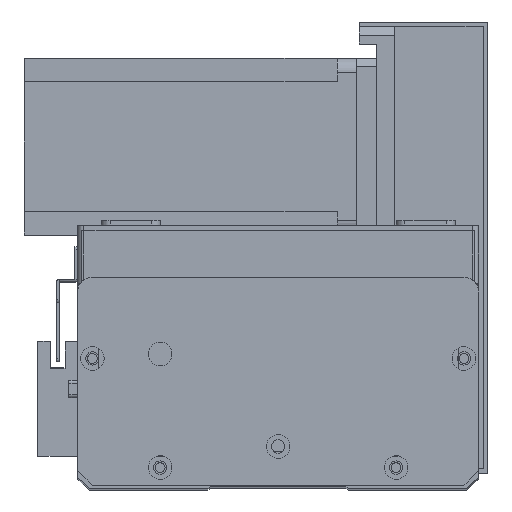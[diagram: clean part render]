
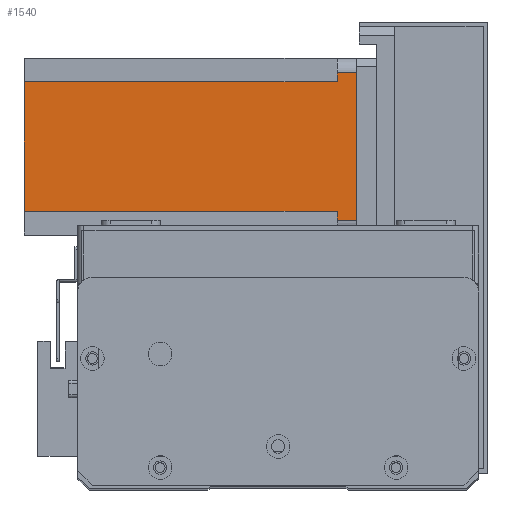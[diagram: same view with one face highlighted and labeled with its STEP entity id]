
A CAD part, top view. The second image highlights one B-rep face of the part: STEP entity #1540.
In plain terms, the highlighted planar face has unit normal (0, 0, 1) as drawn and (0, 1, 0) by its records, which use the part's own axes.
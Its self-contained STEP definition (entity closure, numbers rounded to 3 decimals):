
#616 = VECTOR ( 'NONE', #25482, 1000. ) ;
#816 = ORIENTED_EDGE ( 'NONE', *, *, #3167, .T. ) ;
#1052 = LINE ( 'NONE', #12029, #12373 ) ;
#1540 = ADVANCED_FACE ( 'NONE', ( #7558 ), #16869, .T. ) ;
#1568 = VECTOR ( 'NONE', #9276, 1000. ) ;
#1986 = CARTESIAN_POINT ( 'NONE',  ( 5., 60., -112.5 ) ) ;
#2060 = LINE ( 'NONE', #26237, #616 ) ;
#2554 = EDGE_CURVE ( 'NONE', #4789, #27402, #1052, .T. ) ;
#2674 = DIRECTION ( 'NONE',  ( 0., 0., 1. ) ) ;
#2827 = VERTEX_POINT ( 'NONE', #20514 ) ;
#2858 = VERTEX_POINT ( 'NONE', #20296 ) ;
#2869 = EDGE_CURVE ( 'NONE', #5069, #3078, #22761, .T. ) ;
#3078 = VERTEX_POINT ( 'NONE', #20658 ) ;
#3167 = EDGE_CURVE ( 'NONE', #3078, #2827, #4244, .T. ) ;
#3527 = VECTOR ( 'NONE', #2674, 1000. ) ;
#3693 = EDGE_CURVE ( 'NONE', #23168, #4789, #2060, .T. ) ;
#3716 = EDGE_CURVE ( 'NONE', #23168, #15976, #17667, .T. ) ;
#3947 = EDGE_CURVE ( 'NONE', #5069, #15976, #22348, .T. ) ;
#4244 = LINE ( 'NONE', #1986, #3527 ) ;
#4789 = VERTEX_POINT ( 'NONE', #19268 ) ;
#5069 = VERTEX_POINT ( 'NONE', #9088 ) ;
#5530 = VECTOR ( 'NONE', #21282, 1000. ) ;
#5777 = EDGE_CURVE ( 'NONE', #2858, #2827, #11492, .T. ) ;
#6595 = EDGE_CURVE ( 'NONE', #2858, #27402, #23588, .T. ) ;
#7558 = FACE_OUTER_BOUND ( 'NONE', #7693, .T. ) ;
#7693 = EDGE_LOOP ( 'NONE', ( #14866, #19224, #25730, #8294, #20938, #25809, #9787, #816 ) ) ;
#8137 = CARTESIAN_POINT ( 'NONE',  ( 8., 60., -112.5 ) ) ;
#8294 = ORIENTED_EDGE ( 'NONE', *, *, #3693, .F. ) ;
#9088 = CARTESIAN_POINT ( 'NONE',  ( 8., 60., -6.5 ) ) ;
#9247 = CARTESIAN_POINT ( 'NONE',  ( 55., 60., -112.5 ) ) ;
#9276 = DIRECTION ( 'NONE',  ( 0., 0., -1. ) ) ;
#9787 = ORIENTED_EDGE ( 'NONE', *, *, #2869, .T. ) ;
#9893 = DIRECTION ( 'NONE',  ( 0., 0., 1. ) ) ;
#10179 = DIRECTION ( 'NONE',  ( 0., 1., 0. ) ) ;
#11305 = VECTOR ( 'NONE', #17977, 1000. ) ;
#11492 = LINE ( 'NONE', #21556, #5530 ) ;
#11810 = DIRECTION ( 'NONE',  ( 1., 0., 0. ) ) ;
#11961 = VECTOR ( 'NONE', #24056, 1000. ) ;
#12029 = CARTESIAN_POINT ( 'NONE',  ( 52., 60., -6.5 ) ) ;
#12373 = VECTOR ( 'NONE', #11810, 1000. ) ;
#14866 = ORIENTED_EDGE ( 'NONE', *, *, #5777, .F. ) ;
#15810 = DIRECTION ( 'NONE',  ( 0., 0., -1. ) ) ;
#15976 = VERTEX_POINT ( 'NONE', #8137 ) ;
#16010 = CARTESIAN_POINT ( 'NONE',  ( 8., 60., -112.5 ) ) ;
#16869 = PLANE ( 'NONE',  #21961 ) ;
#17667 = LINE ( 'NONE', #20088, #11961 ) ;
#17977 = DIRECTION ( 'NONE',  ( -1., 0., 0. ) ) ;
#18234 = CARTESIAN_POINT ( 'NONE',  ( 8., 60., -6.5 ) ) ;
#19224 = ORIENTED_EDGE ( 'NONE', *, *, #6595, .T. ) ;
#19268 = CARTESIAN_POINT ( 'NONE',  ( 52., 60., -6.5 ) ) ;
#19285 = CARTESIAN_POINT ( 'NONE',  ( 0., 60., -112.5 ) ) ;
#20088 = CARTESIAN_POINT ( 'NONE',  ( 0., 60., -112.5 ) ) ;
#20296 = CARTESIAN_POINT ( 'NONE',  ( 55., 60., 0. ) ) ;
#20514 = CARTESIAN_POINT ( 'NONE',  ( 5., 60., 0. ) ) ;
#20658 = CARTESIAN_POINT ( 'NONE',  ( 5., 60., -6.5 ) ) ;
#20938 = ORIENTED_EDGE ( 'NONE', *, *, #3716, .T. ) ;
#21282 = DIRECTION ( 'NONE',  ( -1., 0., 0. ) ) ;
#21556 = CARTESIAN_POINT ( 'NONE',  ( 0., 60., 0. ) ) ;
#21961 = AXIS2_PLACEMENT_3D ( 'NONE', #19285, #10179, #9893 ) ;
#22348 = LINE ( 'NONE', #16010, #27391 ) ;
#22761 = LINE ( 'NONE', #18234, #11305 ) ;
#23168 = VERTEX_POINT ( 'NONE', #24779 ) ;
#23588 = LINE ( 'NONE', #9247, #1568 ) ;
#23741 = CARTESIAN_POINT ( 'NONE',  ( 55., 60., -6.5 ) ) ;
#24056 = DIRECTION ( 'NONE',  ( -1., 0., 0. ) ) ;
#24779 = CARTESIAN_POINT ( 'NONE',  ( 52., 60., -112.5 ) ) ;
#25482 = DIRECTION ( 'NONE',  ( 0., 0., 1. ) ) ;
#25730 = ORIENTED_EDGE ( 'NONE', *, *, #2554, .F. ) ;
#25809 = ORIENTED_EDGE ( 'NONE', *, *, #3947, .F. ) ;
#26237 = CARTESIAN_POINT ( 'NONE',  ( 52., 60., -112.5 ) ) ;
#27391 = VECTOR ( 'NONE', #15810, 1000. ) ;
#27402 = VERTEX_POINT ( 'NONE', #23741 ) ;
